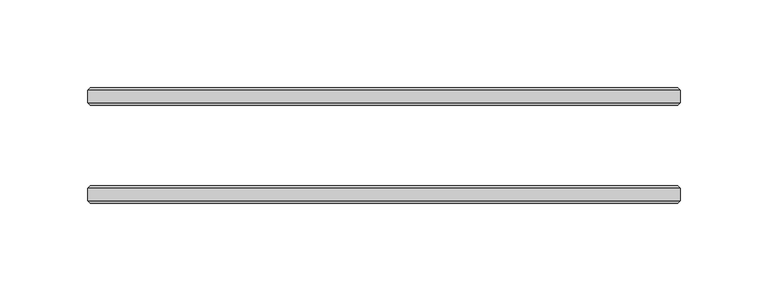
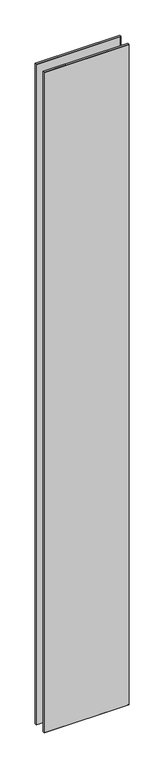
"""IFC4 building model written with IfcOpenShell, lengths in millimetres: plate geometry, 10-AMG-2-Панель двойной витраж10 : Стекло 10mm."""

from ifc_helpers import new_model, si_unit, origin, place, context, project, spatial, faceted_brep, source, transform, mapped, element, save


def plate_749ff60f(model_context):
    return source(origin(), model_context, "Body", "Brep", [
        faceted_brep([(169.0, -31.4961653, 2758.0), (169.0, -24.5038347, 2758.0), (-169.0, -24.5038347, 2758.0), (-169.0, -31.4961653, 2758.0), (169.0, -24.5038347, -20.0), (169.0, -31.4961653, -20.0), (-169.0, -31.4961653, -20.0), (-169.0, -24.5038347, -20.0), (-167.4961653, -23.0, 2756.4961653), (167.4961653, -23.0, 2756.4961653), (167.4961653, -23.0, -18.5039422), (-167.4961653, -23.0, -18.5039422), (167.4961653, -33.0, 2756.4961653), (-167.4961653, -33.0, 2756.4961653), (-167.4961653, -33.0, -18.4961653), (167.4961653, -33.0, -18.4961653)], [[[0, 1, 2, 3]], [[4, 5, 6, 7]], [[8, 9, 10, 11]], [[3, 2, 7, 6]], [[12, 13, 14, 15]], [[1, 0, 5, 4]], [[1, 4, 10, 9]], [[5, 0, 12, 15]], [[0, 3, 13, 12]], [[2, 1, 9, 8]], [[7, 2, 8, 11]], [[3, 6, 14, 13]], [[6, 5, 15, 14]], [[4, 7, 11, 10]]]),
        faceted_brep([(169.0, 24.5038347, 2758.0), (169.0, 31.4961653, 2758.0), (-169.0, 31.4961653, 2758.0), (-169.0, 24.5038347, 2758.0), (169.0, 31.4961653, -20.0), (169.0, 24.5038347, -20.0), (-169.0, 24.5038347, -20.0), (-169.0, 31.4961653, -20.0), (-167.4961653, 33.0, 2756.4961653), (167.4961653, 33.0, 2756.4961653), (167.4961653, 33.0, -18.5039422), (-167.4961653, 33.0, -18.5039422), (167.4961653, 23.0, 2756.4961653), (-167.4961653, 23.0, 2756.4961653), (-167.4961653, 23.0, -18.4961653), (167.4961653, 23.0, -18.4961653)], [[[0, 1, 2, 3]], [[4, 5, 6, 7]], [[8, 9, 10, 11]], [[3, 2, 7, 6]], [[12, 13, 14, 15]], [[1, 0, 5, 4]], [[1, 4, 10, 9]], [[5, 0, 12, 15]], [[7, 2, 8, 11]], [[3, 6, 14, 13]], [[0, 3, 13, 12]], [[2, 1, 9, 8]], [[6, 5, 15, 14]], [[4, 7, 11, 10]]]),
    ])


if __name__ == "__main__":
    model = new_model("IFC4")
    model_context = context("Model", 3, world=origin())
    ifc_project = project(units=[si_unit("LENGTHUNIT", "METRE", prefix="MILLI")], contexts=[model_context])
    site = spatial("IfcSite", under=ifc_project)
    building = spatial("IfcBuilding", under=site)
    placement = place(None, origin())
    plate_shape = plate_749ff60f(model_context)
    element("IfcPlate", 1, ObjectType="10-AMG-2-Панель двойной витраж10 : Стекло 10mm", at=placement, inside=building, context=model_context, shape_type="MappedRepresentation", body=[
        mapped(plate_shape, transform((0.0, 0.0, 0.0), x_axis=(1.0, 0.0, 0.0), y_axis=(0.0, 1.0, 0.0), z_axis=(0.0, 0.0, 1.0))),
    ])
    save(model, "model.ifc")
